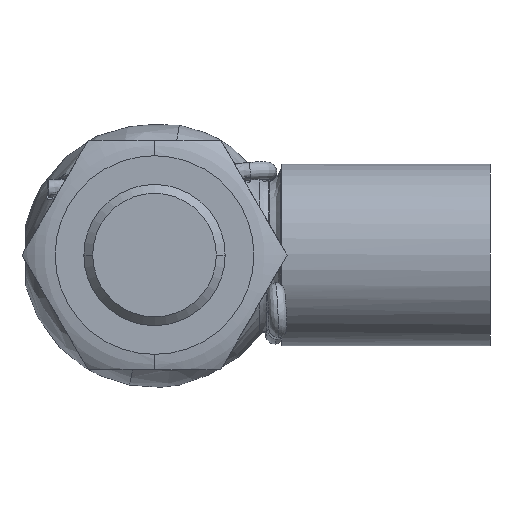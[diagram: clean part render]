
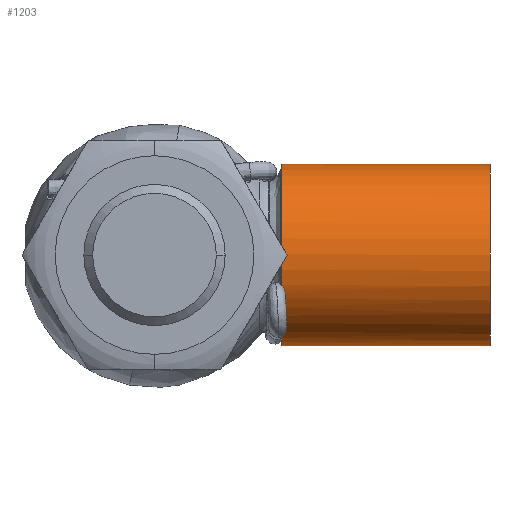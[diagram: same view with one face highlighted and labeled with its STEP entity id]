
A CAD part, front view. The second image highlights one B-rep face of the part: STEP entity #1203.
In plain terms, the highlighted cylindrical face has radius 5.15 mm (diameter 10.3 mm), a partial arc.
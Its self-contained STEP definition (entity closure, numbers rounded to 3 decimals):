
#40 = CIRCLE ( 'NONE', #2645, 5.15 ) ;
#53 = CARTESIAN_POINT ( 'NONE',  ( 7.203, -3.362, -3.901 ) ) ;
#303 = ORIENTED_EDGE ( 'NONE', *, *, #3503, .F. ) ;
#376 = EDGE_CURVE ( 'NONE', #2789, #8838, #2949, .T. ) ;
#400 = CARTESIAN_POINT ( 'NONE',  ( 7.226, -3.404, -3.865 ) ) ;
#588 = ORIENTED_EDGE ( 'NONE', *, *, #5419, .T. ) ;
#611 = CARTESIAN_POINT ( 'NONE',  ( 7.284, -4.578, -2.36 ) ) ;
#667 = CARTESIAN_POINT ( 'NONE',  ( 7.203, -3.362, -3.901 ) ) ;
#671 =( BOUNDED_CURVE ( )  B_SPLINE_CURVE ( 3, ( #53, #4026, #7293, #6481 ),
 .UNSPECIFIED., .F., .T. ) 
 B_SPLINE_CURVE_WITH_KNOTS ( ( 4, 4 ),
 ( 4.071, 4.072 ),
 .UNSPECIFIED. ) 
 CURVE ( )  GEOMETRIC_REPRESENTATION_ITEM ( )  RATIONAL_B_SPLINE_CURVE ( ( 1., 1., 1., 1. ) ) 
 REPRESENTATION_ITEM ( '' )  );
#751 = CARTESIAN_POINT ( 'NONE',  ( 16.117, 0., 0. ) ) ;
#780 = CARTESIAN_POINT ( 'NONE',  ( 7.265, -3.36, -3.903 ) ) ;
#819 = CARTESIAN_POINT ( 'NONE',  ( 7.367, -4.737, -2.022 ) ) ;
#1203 = ADVANCED_FACE ( 'NONE', ( #6806 ), #3351, .T. ) ;
#1277 = CARTESIAN_POINT ( 'NONE',  ( 7.203, -3.423, -3.848 ) ) ;
#1558 = CARTESIAN_POINT ( 'NONE',  ( 7.304, -4.821, -1.814 ) ) ;
#1642 = VERTEX_POINT ( 'NONE', #667 ) ;
#1659 = CARTESIAN_POINT ( 'NONE',  ( 7.203, -4.861, -1.7 ) ) ;
#1666 = VECTOR ( 'NONE', #5682, 1000. ) ;
#1686 = CIRCLE ( 'NONE', #1971, 5.15 ) ;
#1699 = CARTESIAN_POINT ( 'NONE',  ( 7.26, -4.844, -1.751 ) ) ;
#1774 = VERTEX_POINT ( 'NONE', #4270 ) ;
#1808 = EDGE_CURVE ( 'NONE', #3155, #5607, #7158, .T. ) ;
#1864 = DIRECTION ( 'NONE',  ( 0., 0., -1. ) ) ;
#1971 = AXIS2_PLACEMENT_3D ( 'NONE', #3788, #8354, #4253 ) ;
#2127 = DIRECTION ( 'NONE',  ( -1., 0., 0. ) ) ;
#2281 = AXIS2_PLACEMENT_3D ( 'NONE', #8830, #6415, #9755 ) ;
#2471 = CARTESIAN_POINT ( 'NONE',  ( 7.359, -4.675, -2.163 ) ) ;
#2645 = AXIS2_PLACEMENT_3D ( 'NONE', #10096, #8609, #6122 ) ;
#2707 = DIRECTION ( 'NONE',  ( 1., 0., 0. ) ) ;
#2778 = ORIENTED_EDGE ( 'NONE', *, *, #7706, .T. ) ;
#2789 = VERTEX_POINT ( 'NONE', #3622 ) ;
#2839 = VERTEX_POINT ( 'NONE', #6813 ) ;
#2949 = CIRCLE ( 'NONE', #2281, 5.15 ) ;
#3131 = CARTESIAN_POINT ( 'NONE',  ( 7.203, -3.423, -3.848 ) ) ;
#3155 = VERTEX_POINT ( 'NONE', #3131 ) ;
#3351 = CYLINDRICAL_SURFACE ( 'NONE', #8875, 5.15 ) ;
#3470 = LINE ( 'NONE', #3832, #8862 ) ;
#3503 = EDGE_CURVE ( 'NONE', #2789, #7084, #3470, .T. ) ;
#3612 = CARTESIAN_POINT ( 'NONE',  ( 7.265, -3.36, -3.903 ) ) ;
#3618 = ORIENTED_EDGE ( 'NONE', *, *, #8716, .F. ) ;
#3622 = CARTESIAN_POINT ( 'NONE',  ( 19.003, 0., -5.15 ) ) ;
#3682 = ORIENTED_EDGE ( 'NONE', *, *, #7295, .T. ) ;
#3788 = CARTESIAN_POINT ( 'NONE',  ( 7.203, 0., 0. ) ) ;
#3832 = CARTESIAN_POINT ( 'NONE',  ( 16.117, 0., -5.15 ) ) ;
#4026 = CARTESIAN_POINT ( 'NONE',  ( 7.223, -3.361, -3.902 ) ) ;
#4141 = CARTESIAN_POINT ( 'NONE',  ( 7.203, -4.516, -2.476 ) ) ;
#4253 = DIRECTION ( 'NONE',  ( 0., 0., -1. ) ) ;
#4270 = CARTESIAN_POINT ( 'NONE',  ( 7.203, -4.861, -1.7 ) ) ;
#4622 = EDGE_CURVE ( 'NONE', #2839, #1774, #1686, .T. ) ;
#4654 = CARTESIAN_POINT ( 'NONE',  ( 7.246, -4.547, -2.42 ) ) ;
#4754 = ORIENTED_EDGE ( 'NONE', *, *, #376, .T. ) ;
#4998 = ORIENTED_EDGE ( 'NONE', *, *, #1808, .T. ) ;
#5419 = EDGE_CURVE ( 'NONE', #8030, #3155, #40, .T. ) ;
#5607 = VERTEX_POINT ( 'NONE', #780 ) ;
#5655 = CARTESIAN_POINT ( 'NONE',  ( 7.357, -4.768, -1.949 ) ) ;
#5682 = DIRECTION ( 'NONE',  ( -1., 0., 0. ) ) ;
#5742 = CIRCLE ( 'NONE', #10325, 5.15 ) ;
#6003 = LINE ( 'NONE', #7379, #1666 ) ;
#6058 = ORIENTED_EDGE ( 'NONE', *, *, #10085, .F. ) ;
#6122 = DIRECTION ( 'NONE',  ( 0., 0., -1. ) ) ;
#6415 = DIRECTION ( 'NONE',  ( -1., 0., 0. ) ) ;
#6481 = CARTESIAN_POINT ( 'NONE',  ( 7.265, -3.36, -3.903 ) ) ;
#6806 = FACE_OUTER_BOUND ( 'NONE', #10006, .T. ) ;
#6813 = CARTESIAN_POINT ( 'NONE',  ( 7.203, 0., 5.15 ) ) ;
#7084 = VERTEX_POINT ( 'NONE', #10339 ) ;
#7158 = B_SPLINE_CURVE_WITH_KNOTS ( 'NONE', 3,
 ( #1277, #400, #8537, #3612 ),
 .UNSPECIFIED., .F., .F.,
 ( 4, 4 ),
 ( 0., 0. ),
 .UNSPECIFIED. ) ;
#7293 = CARTESIAN_POINT ( 'NONE',  ( 7.244, -3.361, -3.902 ) ) ;
#7295 = EDGE_CURVE ( 'NONE', #8838, #2839, #6003, .T. ) ;
#7379 = CARTESIAN_POINT ( 'NONE',  ( 16.117, 0., 5.15 ) ) ;
#7626 = CARTESIAN_POINT ( 'NONE',  ( 7.203, 0., 0. ) ) ;
#7706 = EDGE_CURVE ( 'NONE', #1642, #7084, #5742, .T. ) ;
#8030 = VERTEX_POINT ( 'NONE', #4141 ) ;
#8217 = CARTESIAN_POINT ( 'NONE',  ( 7.34, -4.642, -2.232 ) ) ;
#8354 = DIRECTION ( 'NONE',  ( 1., 0., 0. ) ) ;
#8437 = ORIENTED_EDGE ( 'NONE', *, *, #4622, .T. ) ;
#8537 = CARTESIAN_POINT ( 'NONE',  ( 7.246, -3.382, -3.884 ) ) ;
#8609 = DIRECTION ( 'NONE',  ( 1., 0., 0. ) ) ;
#8716 = EDGE_CURVE ( 'NONE', #8030, #1774, #10017, .T. ) ;
#8750 = CARTESIAN_POINT ( 'NONE',  ( 7.203, -4.516, -2.476 ) ) ;
#8830 = CARTESIAN_POINT ( 'NONE',  ( 19.003, 0., 0. ) ) ;
#8838 = VERTEX_POINT ( 'NONE', #8954 ) ;
#8862 = VECTOR ( 'NONE', #2127, 1000. ) ;
#8875 = AXIS2_PLACEMENT_3D ( 'NONE', #751, #10558, #9672 ) ;
#8954 = CARTESIAN_POINT ( 'NONE',  ( 19.003, 0., 5.15 ) ) ;
#9672 = DIRECTION ( 'NONE',  ( 0., 0., 1. ) ) ;
#9755 = DIRECTION ( 'NONE',  ( 0., 0., -1. ) ) ;
#10006 = EDGE_LOOP ( 'NONE', ( #303, #4754, #3682, #8437, #3618, #588, #4998, #6058, #2778 ) ) ;
#10017 = B_SPLINE_CURVE_WITH_KNOTS ( 'NONE', 3,
 ( #8750, #4654, #611, #8217, #2471, #819, #5655, #1558, #1699, #1659 ),
 .UNSPECIFIED., .F., .F.,
 ( 4, 2, 2, 2, 4 ),
 ( 0., 0., 0., 0.001, 0.001 ),
 .UNSPECIFIED. ) ;
#10085 = EDGE_CURVE ( 'NONE', #1642, #5607, #671, .T. ) ;
#10096 = CARTESIAN_POINT ( 'NONE',  ( 7.203, 0., 0. ) ) ;
#10325 = AXIS2_PLACEMENT_3D ( 'NONE', #7626, #2707, #1864 ) ;
#10339 = CARTESIAN_POINT ( 'NONE',  ( 7.203, 0., -5.15 ) ) ;
#10558 = DIRECTION ( 'NONE',  ( -1., 0., 0. ) ) ;
